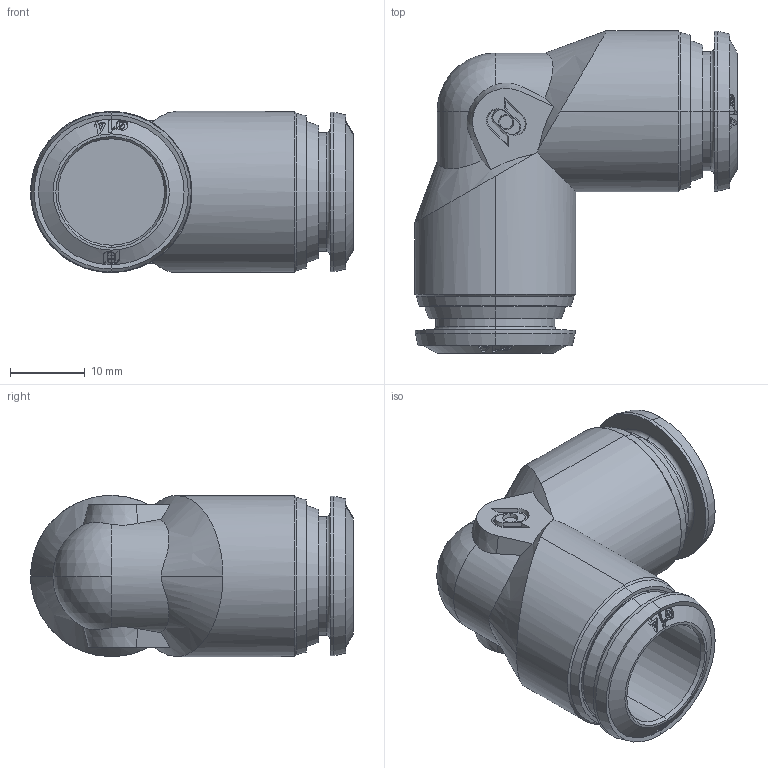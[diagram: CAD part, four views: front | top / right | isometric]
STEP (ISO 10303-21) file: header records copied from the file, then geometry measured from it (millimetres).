
FILE_DESCRIPTION (( 'STEP AP214' ), '1' );
FILE_NAME ('5013000008.step', '2012-10-01T16:47:24', ( '' ), ( '' ), 'SwSTEP 2.0', 'SolidWorks 2012', '' );
FILE_SCHEMA (( 'AUTOMOTIVE_DESIGN' ));
Length unit declared in the file: millimetre
Products named in the file (1): 5013000008
Bounding box: 43.05 x 43.05 x 21.5 mm (x, y, z)
Volume: 15704.7 mm3; surface area: 7796.7 mm2
Topology: 1 solids, 3 shells, 288 faces, 742 edges, 490 vertices
Faces by surface type: bspline 114, cone 74, plane 48, cylinder 42, torus 8, sphere 2
Entity records: 16990 total; most frequent: CARTESIAN_POINT 7816, ORIENTED_EDGE 1484, DIRECTION 816, EDGE_CURVE 742, VERTEX_POINT 490, B_SPLINE_CURVE_WITH_KNOTS 423, AXIS2_PLACEMENT_3D 334, EDGE_LOOP 322
